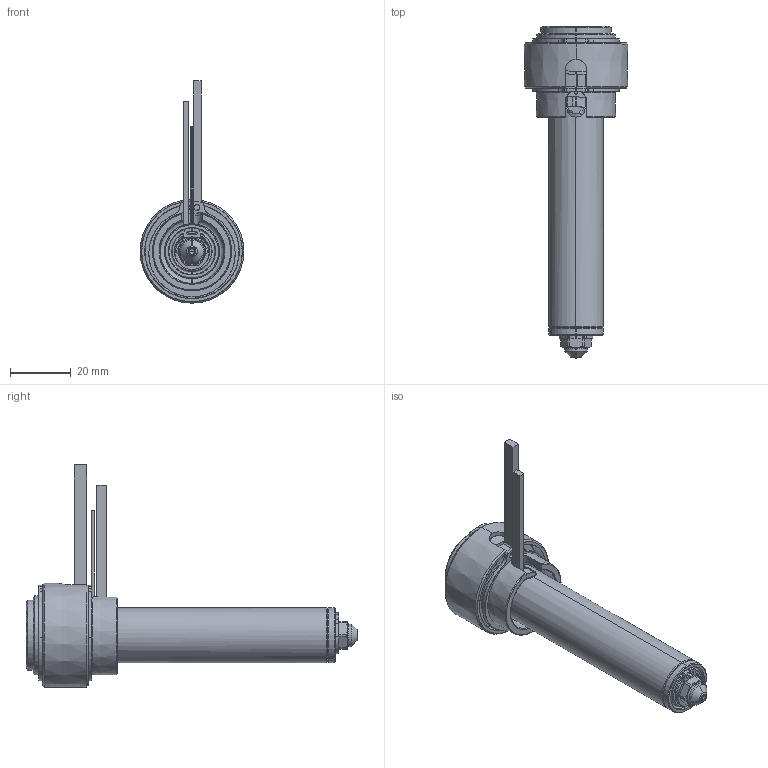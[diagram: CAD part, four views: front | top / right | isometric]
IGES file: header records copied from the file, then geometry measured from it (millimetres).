
Start section: SolidWorks IGES file using analytic representation for surfaces
Global section: file name: C:\Documents and Settings\ws-20\Desktop\TEM\UGER2503-M-A-0 [Øb-1.90 ØC-5.0].IGS; native system: SolidWorks 2012; preprocessor: SolidWorks 2012; author: ws-20; date: 120405.105211; units: millimetre
Bounding box: 34 x 108.9 x 72.9 mm (x, y, z)
Surface area: 24808.3 mm2 (no closed solid volume)
Topology: 0 solids, 0 shells, 193 faces, 2571 edges, 2569 vertices
Faces by surface type: revolution 121, bspline 72
